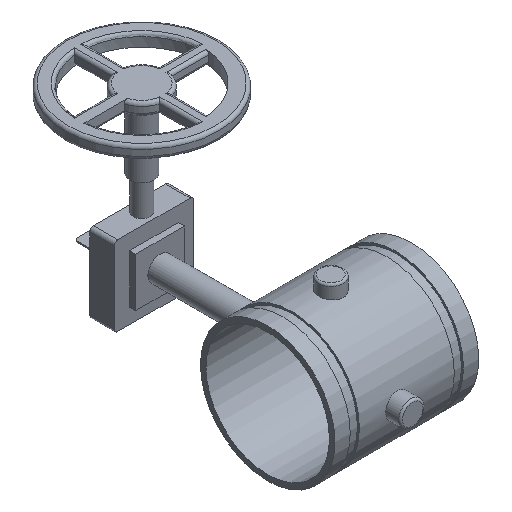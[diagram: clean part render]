
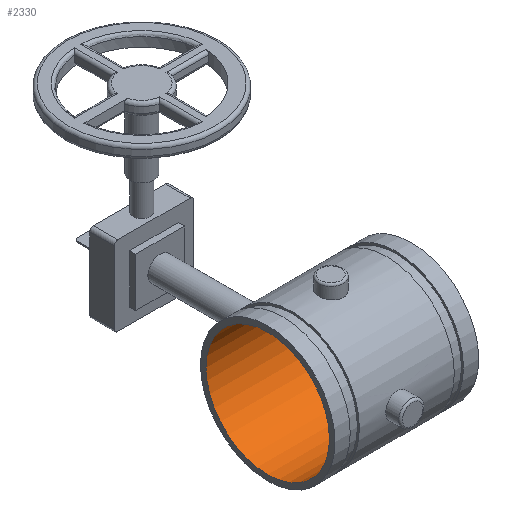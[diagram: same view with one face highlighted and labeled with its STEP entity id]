
A CAD part, isometric view. The second image highlights one B-rep face of the part: STEP entity #2330.
In plain terms, the highlighted cylindrical face has radius 64.097 mm (diameter 128.194 mm), a full revolution.
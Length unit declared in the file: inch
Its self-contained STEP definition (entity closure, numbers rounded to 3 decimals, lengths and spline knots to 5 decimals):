
#80=CYLINDRICAL_SURFACE('',#2555,2.5235);
#193=CIRCLE('',#2553,2.5235);
#194=CIRCLE('',#2554,2.5235);
#195=CIRCLE('',#2556,2.5235);
#196=CIRCLE('',#2557,2.5235);
#366=FACE_OUTER_BOUND('',#506,.T.);
#506=EDGE_LOOP('',(#1922,#1923,#1924,#1925,#1926,#1927));
#682=LINE('',#4300,#861);
#861=VECTOR('',#3125,2.5235);
#1071=VERTEX_POINT('',#4294);
#1072=VERTEX_POINT('',#4295);
#1073=VERTEX_POINT('',#4299);
#1074=VERTEX_POINT('',#4301);
#1370=EDGE_CURVE('',#1071,#1072,#193,.T.);
#1371=EDGE_CURVE('',#1072,#1071,#194,.T.);
#1372=EDGE_CURVE('',#1072,#1073,#682,.T.);
#1373=EDGE_CURVE('',#1074,#1073,#195,.T.);
#1374=EDGE_CURVE('',#1073,#1074,#196,.T.);
#1922=ORIENTED_EDGE('',*,*,#1370,.T.);
#1923=ORIENTED_EDGE('',*,*,#1372,.T.);
#1924=ORIENTED_EDGE('',*,*,#1373,.F.);
#1925=ORIENTED_EDGE('',*,*,#1374,.F.);
#1926=ORIENTED_EDGE('',*,*,#1372,.F.);
#1927=ORIENTED_EDGE('',*,*,#1371,.T.);
#2330=ADVANCED_FACE('',(#366),#80,.F.);
#2553=AXIS2_PLACEMENT_3D('',#4296,#3119,#3120);
#2554=AXIS2_PLACEMENT_3D('',#4297,#3121,#3122);
#2555=AXIS2_PLACEMENT_3D('',#4298,#3123,#3124);
#2556=AXIS2_PLACEMENT_3D('',#4302,#3126,#3127);
#2557=AXIS2_PLACEMENT_3D('',#4303,#3128,#3129);
#3119=DIRECTION('center_axis',(1.,0.,0.));
#3120=DIRECTION('ref_axis',(0.,0.,1.));
#3121=DIRECTION('center_axis',(1.,0.,0.));
#3122=DIRECTION('ref_axis',(0.,0.,1.));
#3123=DIRECTION('center_axis',(1.,0.,0.));
#3124=DIRECTION('ref_axis',(0.,1.,0.));
#3125=DIRECTION('',(-1.,0.,0.));
#3126=DIRECTION('center_axis',(1.,0.,0.));
#3127=DIRECTION('ref_axis',(0.,0.,1.));
#3128=DIRECTION('center_axis',(1.,0.,0.));
#3129=DIRECTION('ref_axis',(0.,0.,1.));
#4294=CARTESIAN_POINT('',(2.94,0.,2.5235));
#4295=CARTESIAN_POINT('',(2.94,-2.5235,0.));
#4296=CARTESIAN_POINT('Origin',(2.94,0.,0.));
#4297=CARTESIAN_POINT('Origin',(2.94,0.,0.));
#4298=CARTESIAN_POINT('Origin',(0.,0.,
0.));
#4299=CARTESIAN_POINT('',(-2.94,-2.5235,0.));
#4300=CARTESIAN_POINT('',(0.,-2.5235,0.));
#4301=CARTESIAN_POINT('',(-2.94,2.5235,0.));
#4302=CARTESIAN_POINT('Origin',(-2.94,0.,0.));
#4303=CARTESIAN_POINT('Origin',(-2.94,0.,0.));
